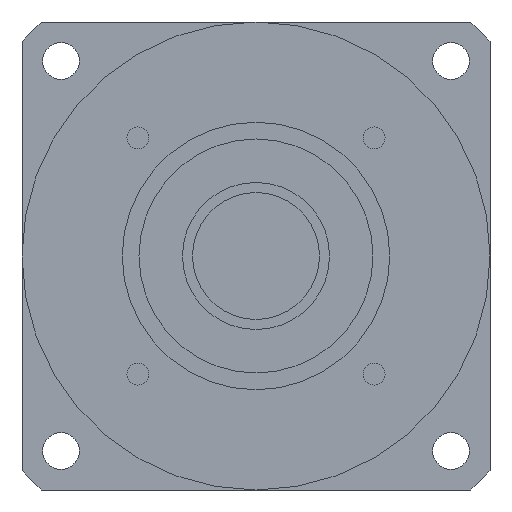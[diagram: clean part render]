
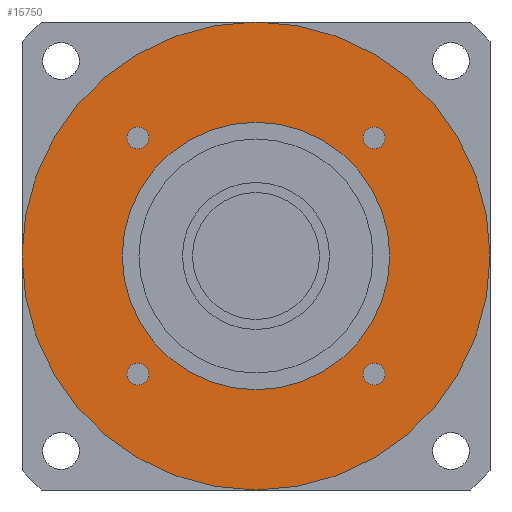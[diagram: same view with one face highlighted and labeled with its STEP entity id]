
A CAD part, left-side view. The second image highlights one B-rep face of the part: STEP entity #15750.
In plain terms, the highlighted planar face has unit normal (-1, 0, 0) as drawn and (0, 0, -1) by its records, which use the part's own axes.
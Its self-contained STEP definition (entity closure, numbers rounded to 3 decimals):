
#14630=CARTESIAN_POINT('',(70.,0.,-84.701));
#14640=VERTEX_POINT('',#14630);
#14670=CARTESIAN_POINT('',(0.,0.,
-84.701));
#14680=DIRECTION('',(0.,0.,-1.));
#14690=DIRECTION('',(-1.,0.,0.));
#14700=AXIS2_PLACEMENT_3D('',#14670,#14680,#14690);
#14710=CIRCLE('',#14700,70.);
#14720=CARTESIAN_POINT('',(-70.,0.,-84.701));
#14730=VERTEX_POINT('',#14720);
#14740=EDGE_CURVE('',#14640,#14730,#14710,.T.);
#14860=CARTESIAN_POINT('',(0.,0.,
-84.701));
#14870=DIRECTION('',(0.,0.,-1.));
#14880=DIRECTION('',(1.,0.,0.));
#14890=AXIS2_PLACEMENT_3D('',#14860,#14870,#14880);
#14900=PLANE('',#14890);
#14910=CARTESIAN_POINT('',(35.355,-35.355,-84.701));
#14920=DIRECTION('',(0.,0.,-1.));
#14930=DIRECTION('',(1.,0.,0.));
#14940=AXIS2_PLACEMENT_3D('',#14910,#14920,#14930);
#14950=CIRCLE('',#14940,3.25);
#14960=CARTESIAN_POINT('',(38.605,-35.355,-84.701));
#14970=VERTEX_POINT('',#14960);
#14980=CARTESIAN_POINT('',(32.105,-35.355,-84.701));
#14990=VERTEX_POINT('',#14980);
#15000=EDGE_CURVE('',#14970,#14990,#14950,.T.);
#15010=ORIENTED_EDGE('',*,*,#15000,.F.);
#15020=EDGE_CURVE('',#14990,#14970,#14950,.T.);
#15030=ORIENTED_EDGE('',*,*,#15020,.F.);
#15040=EDGE_LOOP('',(#15030,#15010));
#15050=FACE_BOUND('',#15040,.T.);
#15060=CARTESIAN_POINT('',(35.355,35.355,-84.701));
#15070=DIRECTION('',(0.,0.,-1.));
#15080=DIRECTION('',(0.,1.,0.));
#15090=AXIS2_PLACEMENT_3D('',#15060,#15070,#15080);
#15100=CIRCLE('',#15090,3.25);
#15110=CARTESIAN_POINT('',(35.355,38.605,-84.701));
#15120=VERTEX_POINT('',#15110);
#15130=CARTESIAN_POINT('',(35.355,32.105,-84.701));
#15140=VERTEX_POINT('',#15130);
#15150=EDGE_CURVE('',#15120,#15140,#15100,.T.);
#15160=ORIENTED_EDGE('',*,*,#15150,.F.);
#15170=EDGE_CURVE('',#15140,#15120,#15100,.T.);
#15180=ORIENTED_EDGE('',*,*,#15170,.F.);
#15190=EDGE_LOOP('',(#15180,#15160));
#15200=FACE_BOUND('',#15190,.T.);
#15210=CARTESIAN_POINT('',(-35.355,35.355,-84.701));
#15220=DIRECTION('',(0.,0.,-1.));
#15230=DIRECTION('',(-1.,0.,0.));
#15240=AXIS2_PLACEMENT_3D('',#15210,#15220,#15230);
#15250=CIRCLE('',#15240,3.25);
#15260=CARTESIAN_POINT('',(-38.605,35.355,-84.701));
#15270=VERTEX_POINT('',#15260);
#15280=CARTESIAN_POINT('',(-32.105,35.355,-84.701));
#15290=VERTEX_POINT('',#15280);
#15300=EDGE_CURVE('',#15270,#15290,#15250,.T.);
#15310=ORIENTED_EDGE('',*,*,#15300,.F.);
#15320=EDGE_CURVE('',#15290,#15270,#15250,.T.);
#15330=ORIENTED_EDGE('',*,*,#15320,.F.);
#15340=EDGE_LOOP('',(#15330,#15310));
#15350=FACE_BOUND('',#15340,.T.);
#15360=CARTESIAN_POINT('',(-35.355,-35.355,-84.701))
;
#15370=DIRECTION('',(0.,0.,-1.));
#15380=DIRECTION('',(0.,-1.,0.));
#15390=AXIS2_PLACEMENT_3D('',#15360,#15370,#15380);
#15400=CIRCLE('',#15390,3.25);
#15410=CARTESIAN_POINT('',(-35.355,-38.605,-84.701))
;
#15420=VERTEX_POINT('',#15410);
#15430=CARTESIAN_POINT('',(-35.355,-32.105,-84.701))
;
#15440=VERTEX_POINT('',#15430);
#15450=EDGE_CURVE('',#15420,#15440,#15400,.T.);
#15460=ORIENTED_EDGE('',*,*,#15450,.F.);
#15470=EDGE_CURVE('',#15440,#15420,#15400,.T.);
#15480=ORIENTED_EDGE('',*,*,#15470,.F.);
#15490=EDGE_LOOP('',(#15480,#15460));
#15500=FACE_BOUND('',#15490,.T.);
#15510=CARTESIAN_POINT('',(0.,0.,
-84.701));
#15520=DIRECTION('',(0.,0.,1.));
#15530=DIRECTION('',(0.,1.,0.));
#15540=AXIS2_PLACEMENT_3D('',#15510,#15520,#15530);
#15550=CIRCLE('',#15540,40.);
#15560=CARTESIAN_POINT('',(-40.,0.,-84.701));
#15570=VERTEX_POINT('',#15560);
#15580=CARTESIAN_POINT('',(40.,0.,-84.701));
#15590=VERTEX_POINT('',#15580);
#15600=EDGE_CURVE('',#15570,#15590,#15550,.T.);
#15610=ORIENTED_EDGE('',*,*,#15600,.T.);
#15620=CARTESIAN_POINT('',(0.,40.,-84.701));
#15630=VERTEX_POINT('',#15620);
#15640=EDGE_CURVE('',#15630,#15570,#15550,.T.);
#15650=ORIENTED_EDGE('',*,*,#15640,.T.);
#15660=EDGE_CURVE('',#15590,#15630,#15550,.T.);
#15670=ORIENTED_EDGE('',*,*,#15660,.T.);
#15680=EDGE_LOOP('',(#15670,#15650,#15610));
#15690=FACE_BOUND('',#15680,.T.);
#15700=EDGE_CURVE('',#14730,#14640,#14710,.T.);
#15710=ORIENTED_EDGE('',*,*,#15700,.T.);
#15720=ORIENTED_EDGE('',*,*,#14740,.T.);
#15730=EDGE_LOOP('',(#15720,#15710));
#15740=FACE_OUTER_BOUND('',#15730,.T.);
#15750=ADVANCED_FACE('',(#15050,#15200,#15350,#15500,#15690,#15740),
#14900,.T.);
